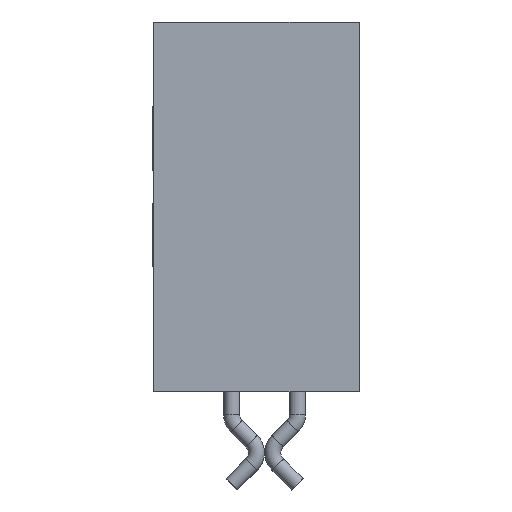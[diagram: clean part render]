
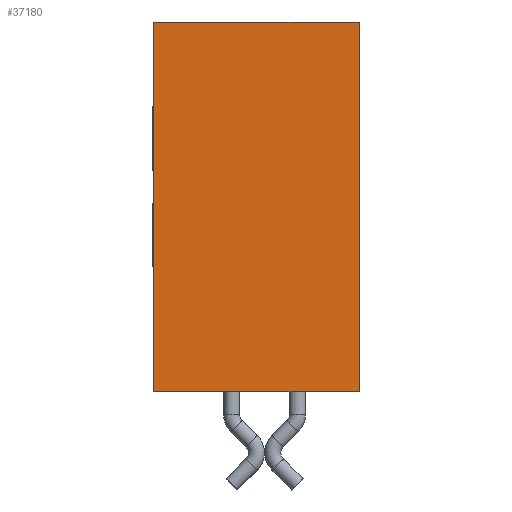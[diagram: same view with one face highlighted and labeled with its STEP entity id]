
A CAD part, left-side view. The second image highlights one B-rep face of the part: STEP entity #37180.
In plain terms, the highlighted planar face has unit normal (-1, 0, 0).
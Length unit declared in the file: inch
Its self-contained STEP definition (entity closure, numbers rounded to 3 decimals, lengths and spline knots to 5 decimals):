
#13651 = VECTOR ( 'NONE', #13658, 39.37008 ) ;
#13658 = DIRECTION ( 'NONE',  ( 0., -1., 0. ) ) ;
#13659 = LINE ( 'NONE', #13665, #13651 ) ;
#13665 = CARTESIAN_POINT ( 'NONE',  ( -0.6625, 0.0675, 0. ) ) ;
#13714 = VECTOR ( 'NONE', #13762, 39.37008 ) ;
#13744 = CARTESIAN_POINT ( 'NONE',  ( -0.6625, 0.0675, 0. ) ) ;
#13762 = DIRECTION ( 'NONE',  ( 0., 0., 1. ) ) ;
#14286 = LINE ( 'NONE', #14290, #13714 ) ;
#14290 = CARTESIAN_POINT ( 'NONE',  ( -0.6625, -0.0575, -0.225 ) ) ;
#28248 = DIRECTION ( 'NONE',  ( 0., 0., 1. ) ) ;
#28249 = DIRECTION ( 'NONE',  ( -1., 0., 0. ) ) ;
#28251 = CARTESIAN_POINT ( 'NONE',  ( -0.6625, 0.0675, -0.225 ) ) ;
#28252 = AXIS2_PLACEMENT_3D ( 'NONE', #28251, #28249, #28248 ) ;
#28253 = PLANE ( 'NONE',  #28252 ) ;
#29199 = FACE_OUTER_BOUND ( 'NONE', #37131, .T. ) ;
#36412 = ORIENTED_EDGE ( 'NONE', *, *, #36418, .F. ) ;
#36418 = EDGE_CURVE ( 'NONE', #36499, #37247, #54633, .T. ) ;
#36419 = ORIENTED_EDGE ( 'NONE', *, *, #38020, .T. ) ;
#36444 = VERTEX_POINT ( 'NONE', #54670 ) ;
#36446 = EDGE_CURVE ( 'NONE', #36499, #36444, #54680, .T. ) ;
#36498 = VERTEX_POINT ( 'NONE', #56260 ) ;
#36499 = VERTEX_POINT ( 'NONE', #53656 ) ;
#37096 = ORIENTED_EDGE ( 'NONE', *, *, #37248, .F. ) ;
#37131 = EDGE_LOOP ( 'NONE', ( #37096, #36412, #37213, #36419 ) ) ;
#37180 = ADVANCED_FACE ( 'NONE', ( #29199 ), #28253, .T. ) ;
#37213 = ORIENTED_EDGE ( 'NONE', *, *, #36446, .T. ) ;
#37247 = VERTEX_POINT ( 'NONE', #13744 ) ;
#37248 = EDGE_CURVE ( 'NONE', #37247, #36498, #13659, .T. ) ;
#38020 = EDGE_CURVE ( 'NONE', #36444, #36498, #14286, .T. ) ;
#53656 = CARTESIAN_POINT ( 'NONE',  ( -0.6625, 0.0675, -0.225 ) ) ;
#54323 = DIRECTION ( 'NONE',  ( 0., 0., 1. ) ) ;
#54325 = VECTOR ( 'NONE', #54323, 39.37008 ) ;
#54632 = CARTESIAN_POINT ( 'NONE',  ( -0.6625, 0.0675, -0.225 ) ) ;
#54633 = LINE ( 'NONE', #54632, #54325 ) ;
#54642 = DIRECTION ( 'NONE',  ( 0., -1., 0. ) ) ;
#54644 = VECTOR ( 'NONE', #54642, 39.37008 ) ;
#54670 = CARTESIAN_POINT ( 'NONE',  ( -0.6625, -0.0575, -0.225 ) ) ;
#54679 = CARTESIAN_POINT ( 'NONE',  ( -0.6625, 0.0675, -0.225 ) ) ;
#54680 = LINE ( 'NONE', #54679, #54644 ) ;
#56260 = CARTESIAN_POINT ( 'NONE',  ( -0.6625, -0.0575, 0. ) ) ;
